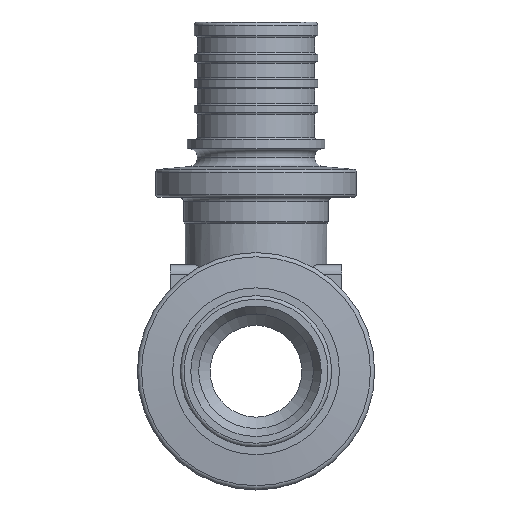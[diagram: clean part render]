
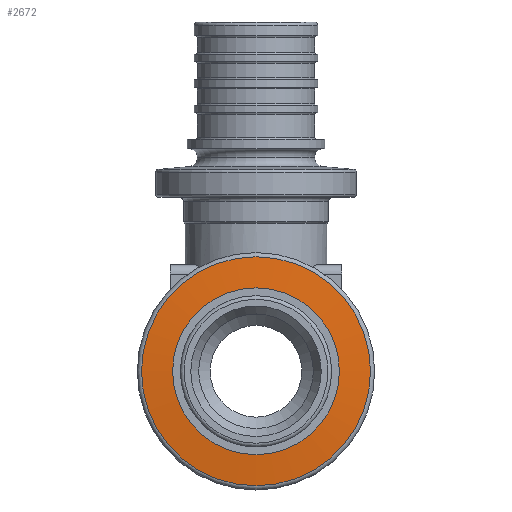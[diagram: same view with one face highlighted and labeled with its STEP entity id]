
A CAD part, front view. The second image highlights one B-rep face of the part: STEP entity #2672.
In plain terms, the highlighted conical face has half-angle 85 degrees and reference radius 10.628 mm.
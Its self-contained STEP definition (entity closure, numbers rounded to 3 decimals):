
#2672=ADVANCED_FACE('',(#5991,#5993),#5995,.T.);
#5991=FACE_OUTER_BOUND('',#5992,.T.);
#5992=EDGE_LOOP('',(#9035));
#5993=FACE_OUTER_BOUND('',#5994,.T.);
#5994=EDGE_LOOP('',(#9036));
#5995=CONICAL_SURFACE('',#5996,10.628,1.484);
#5996=AXIS2_PLACEMENT_3D('',#5997,#5998,#5999);
#5997=CARTESIAN_POINT('',(0.,-20.503,0.));
#5998=DIRECTION('',(0.,1.,0.));
#5999=DIRECTION('',(-1.,0.,0.));
#9035=ORIENTED_EDGE('',*,*,#10083,.T.);
#9036=ORIENTED_EDGE('',*,*,#10084,.T.);
#10083=EDGE_CURVE('',#11547,#11547,#11548,.T.);
#10084=EDGE_CURVE('',#11549,#11549,#11550,.F.);
#11547=VERTEX_POINT('',#15622);
#11548=CIRCLE('',#15623,12.494);
#11549=VERTEX_POINT('',#15627);
#11550=CIRCLE('',#15628,8.763);
#15622=CARTESIAN_POINT('',(12.494,-20.34,0.));
#15623=AXIS2_PLACEMENT_3D('',#15624,#15625,#15626);
#15624=CARTESIAN_POINT('',(0.,-20.34,0.));
#15625=DIRECTION('',(0.,-1.,0.));
#15626=DIRECTION('',(1.,0.,0.));
#15627=CARTESIAN_POINT('',(8.763,-20.666,0.));
#15628=AXIS2_PLACEMENT_3D('',#15629,#15630,#15631);
#15629=CARTESIAN_POINT('',(0.,-20.666,0.));
#15630=DIRECTION('',(0.,-1.,0.));
#15631=DIRECTION('',(1.,0.,0.));
